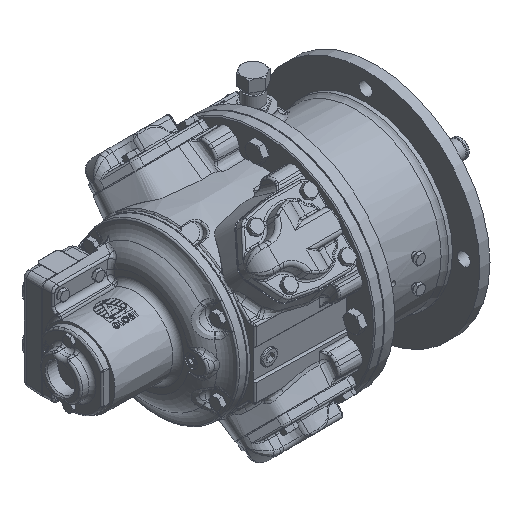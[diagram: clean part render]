
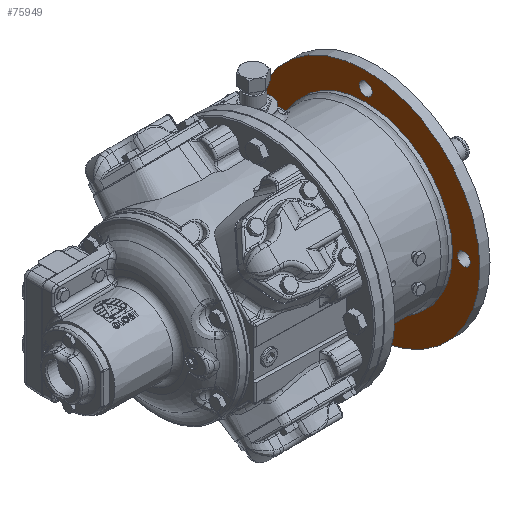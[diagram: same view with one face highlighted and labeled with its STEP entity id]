
A CAD part, isometric view. The second image highlights one B-rep face of the part: STEP entity #75949.
In plain terms, the highlighted planar face has unit normal (-1, 0, 0).
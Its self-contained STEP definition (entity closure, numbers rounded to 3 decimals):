
#2506 = DIRECTION ( 'NONE',  ( -1., 0., 0. ) ) ;
#5024 = CARTESIAN_POINT ( 'NONE',  ( 156.55, 0., 0. ) ) ;
#5815 = DIRECTION ( 'NONE',  ( 0., 0., 1. ) ) ;
#6405 = AXIS2_PLACEMENT_3D ( 'NONE', #159376, #70149, #34035 ) ;
#12186 = VERTEX_POINT ( 'NONE', #79350 ) ;
#12317 = EDGE_CURVE ( 'NONE', #18408, #18408, #41164, .T. ) ;
#16774 = EDGE_CURVE ( 'NONE', #12186, #12186, #84310, .T. ) ;
#17056 = AXIS2_PLACEMENT_3D ( 'NONE', #41195, #106783, #54609 ) ;
#17998 = ORIENTED_EDGE ( 'NONE', *, *, #16774, .F. ) ;
#18408 = VERTEX_POINT ( 'NONE', #84715 ) ;
#23145 = EDGE_LOOP ( 'NONE', ( #92201 ) ) ;
#24256 = CIRCLE ( 'NONE', #56477, 7. ) ;
#25483 = CARTESIAN_POINT ( 'NONE',  ( 156.55, 125., 0. ) ) ;
#30272 = DIRECTION ( 'NONE',  ( -1., 0., 0. ) ) ;
#31088 = DIRECTION ( 'NONE',  ( 0., 0., 1. ) ) ;
#32841 = ORIENTED_EDGE ( 'NONE', *, *, #113641, .T. ) ;
#34035 = DIRECTION ( 'NONE',  ( 0., 0., 1. ) ) ;
#35043 = CARTESIAN_POINT ( 'NONE',  ( 156.55, 0., 107.5 ) ) ;
#36735 = AXIS2_PLACEMENT_3D ( 'NONE', #25483, #38920, #48160 ) ;
#38864 = VERTEX_POINT ( 'NONE', #90084 ) ;
#38920 = DIRECTION ( 'NONE',  ( -1., 0., 0. ) ) ;
#41164 = CIRCLE ( 'NONE', #17056, 7. ) ;
#41195 = CARTESIAN_POINT ( 'NONE',  ( 156.55, -107.5, 0. ) ) ;
#42978 = CARTESIAN_POINT ( 'NONE',  ( 156.55, 0., 95. ) ) ;
#45692 = FACE_BOUND ( 'NONE', #134860, .T. ) ;
#48160 = DIRECTION ( 'NONE',  ( 0., 0., 1. ) ) ;
#54609 = DIRECTION ( 'NONE',  ( 0., 0., 1. ) ) ;
#56477 = AXIS2_PLACEMENT_3D ( 'NONE', #160613, #120997, #5815 ) ;
#67282 = EDGE_CURVE ( 'NONE', #139028, #139028, #24256, .T. ) ;
#70149 = DIRECTION ( 'NONE',  ( -1., 0., 0. ) ) ;
#73437 = FACE_BOUND ( 'NONE', #164106, .T. ) ;
#73705 = DIRECTION ( 'NONE',  ( -1., 0., 0. ) ) ;
#75949 = ADVANCED_FACE ( 'NONE', ( #83504, #73437, #135757, #124750, #134902, #45692 ), #97011, .T. ) ;
#79324 = CIRCLE ( 'NONE', #106254, 95. ) ;
#79350 = CARTESIAN_POINT ( 'NONE',  ( 156.55, 0., 114.5 ) ) ;
#80552 = EDGE_CURVE ( 'NONE', #136555, #136555, #108438, .T. ) ;
#81519 = DIRECTION ( 'NONE',  ( 0., 0., 1. ) ) ;
#83504 = FACE_BOUND ( 'NONE', #23145, .T. ) ;
#84310 = CIRCLE ( 'NONE', #148881, 7. ) ;
#84715 = CARTESIAN_POINT ( 'NONE',  ( 156.55, -107.5, 7. ) ) ;
#85141 = CARTESIAN_POINT ( 'NONE',  ( 156.55, 0., -100.5 ) ) ;
#85956 = EDGE_LOOP ( 'NONE', ( #88165 ) ) ;
#88165 = ORIENTED_EDGE ( 'NONE', *, *, #12317, .F. ) ;
#90084 = CARTESIAN_POINT ( 'NONE',  ( 156.55, 0., 125. ) ) ;
#92201 = ORIENTED_EDGE ( 'NONE', *, *, #67282, .F. ) ;
#97011 = PLANE ( 'NONE',  #36735 ) ;
#106254 = AXIS2_PLACEMENT_3D ( 'NONE', #143840, #2506, #31088 ) ;
#106492 = ORIENTED_EDGE ( 'NONE', *, *, #141534, .F. ) ;
#106783 = DIRECTION ( 'NONE',  ( -1., 0., 0. ) ) ;
#108438 = CIRCLE ( 'NONE', #6405, 7. ) ;
#113641 = EDGE_CURVE ( 'NONE', #38864, #38864, #147939, .T. ) ;
#120997 = DIRECTION ( 'NONE',  ( -1., 0., 0. ) ) ;
#123855 = CARTESIAN_POINT ( 'NONE',  ( 156.55, 107.5, 7. ) ) ;
#124750 = FACE_BOUND ( 'NONE', #130669, .T. ) ;
#125015 = DIRECTION ( 'NONE',  ( 0., 0., 1. ) ) ;
#130669 = EDGE_LOOP ( 'NONE', ( #138634 ) ) ;
#134860 = EDGE_LOOP ( 'NONE', ( #106492 ) ) ;
#134902 = FACE_OUTER_BOUND ( 'NONE', #141976, .T. ) ;
#135757 = FACE_BOUND ( 'NONE', #85956, .T. ) ;
#136555 = VERTEX_POINT ( 'NONE', #85141 ) ;
#137128 = AXIS2_PLACEMENT_3D ( 'NONE', #5024, #30272, #81519 ) ;
#138634 = ORIENTED_EDGE ( 'NONE', *, *, #80552, .F. ) ;
#139028 = VERTEX_POINT ( 'NONE', #123855 ) ;
#141534 = EDGE_CURVE ( 'NONE', #158292, #158292, #79324, .T. ) ;
#141976 = EDGE_LOOP ( 'NONE', ( #32841 ) ) ;
#143840 = CARTESIAN_POINT ( 'NONE',  ( 156.55, 0., 0. ) ) ;
#147939 = CIRCLE ( 'NONE', #137128, 125. ) ;
#148881 = AXIS2_PLACEMENT_3D ( 'NONE', #35043, #73705, #125015 ) ;
#158292 = VERTEX_POINT ( 'NONE', #42978 ) ;
#159376 = CARTESIAN_POINT ( 'NONE',  ( 156.55, 0., -107.5 ) ) ;
#160613 = CARTESIAN_POINT ( 'NONE',  ( 156.55, 107.5, 0. ) ) ;
#164106 = EDGE_LOOP ( 'NONE', ( #17998 ) ) ;
